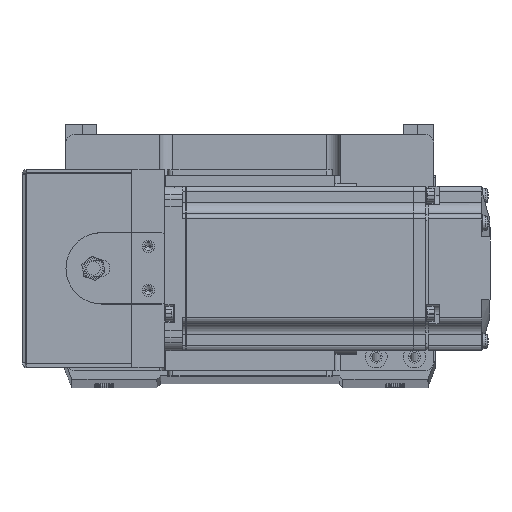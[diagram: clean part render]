
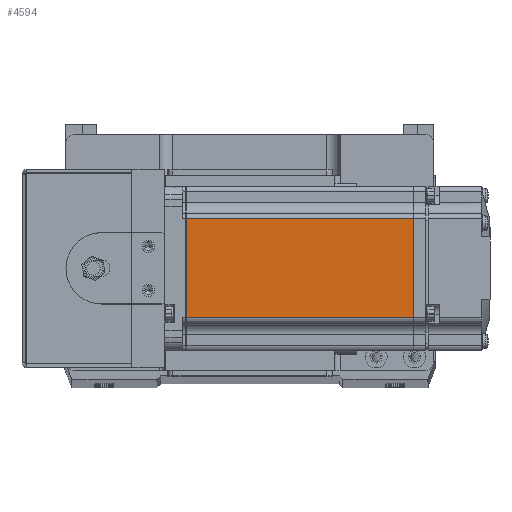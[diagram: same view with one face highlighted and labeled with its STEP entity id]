
A CAD part, top view. The second image highlights one B-rep face of the part: STEP entity #4594.
In plain terms, the highlighted planar face has unit normal (0, 0, 1) as drawn and (0, 1, 0) by its records, which use the part's own axes.
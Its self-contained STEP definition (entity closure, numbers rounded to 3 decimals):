
#1325 = EDGE_CURVE ( 'NONE', #31426, #33763, #35543, .T. ) ;
#2206 = VECTOR ( 'NONE', #10116, 1000. ) ;
#4594 = ADVANCED_FACE ( 'NONE', ( #14543 ), #14746, .T. ) ;
#5570 = DIRECTION ( 'NONE',  ( -1., 0., 0. ) ) ;
#10116 = DIRECTION ( 'NONE',  ( 0., 0., 1. ) ) ;
#10233 = ORIENTED_EDGE ( 'NONE', *, *, #24359, .F. ) ;
#11449 = DIRECTION ( 'NONE',  ( 0., 0., 1. ) ) ;
#11856 = CARTESIAN_POINT ( 'NONE',  ( -6.5, 30., 25. ) ) ;
#13546 = VERTEX_POINT ( 'NONE', #26783 ) ;
#14543 = FACE_OUTER_BOUND ( 'NONE', #26368, .T. ) ;
#14746 = PLANE ( 'NONE',  #15829 ) ;
#15267 = LINE ( 'NONE', #25596, #29333 ) ;
#15829 = AXIS2_PLACEMENT_3D ( 'NONE', #11856, #27770, #11449 ) ;
#17765 = VECTOR ( 'NONE', #36363, 1000. ) ;
#23745 = ORIENTED_EDGE ( 'NONE', *, *, #38741, .T. ) ;
#24208 = CARTESIAN_POINT ( 'NONE',  ( -6.5, 30., -18. ) ) ;
#24359 = EDGE_CURVE ( 'NONE', #13546, #33763, #35702, .T. ) ;
#25596 = CARTESIAN_POINT ( 'NONE',  ( -90.45, 30., 0. ) ) ;
#25801 = CARTESIAN_POINT ( 'NONE',  ( -90.45, 30., 18. ) ) ;
#26261 = EDGE_CURVE ( 'NONE', #33699, #31426, #15267, .T. ) ;
#26368 = EDGE_LOOP ( 'NONE', ( #10233, #23745, #38553, #39632 ) ) ;
#26648 = CARTESIAN_POINT ( 'NONE',  ( -7.75, 30., 0. ) ) ;
#26783 = CARTESIAN_POINT ( 'NONE',  ( -7.75, 30., -18. ) ) ;
#26903 = LINE ( 'NONE', #24208, #32397 ) ;
#27770 = DIRECTION ( 'NONE',  ( 0., 1., 0. ) ) ;
#29333 = VECTOR ( 'NONE', #31761, 1000. ) ;
#31426 = VERTEX_POINT ( 'NONE', #25801 ) ;
#31761 = DIRECTION ( 'NONE',  ( 0., 0., 1. ) ) ;
#32397 = VECTOR ( 'NONE', #5570, 1000. ) ;
#33699 = VERTEX_POINT ( 'NONE', #36145 ) ;
#33763 = VERTEX_POINT ( 'NONE', #37788 ) ;
#35543 = LINE ( 'NONE', #35949, #17765 ) ;
#35702 = LINE ( 'NONE', #26648, #2206 ) ;
#35949 = CARTESIAN_POINT ( 'NONE',  ( -6.5, 30., 18. ) ) ;
#36145 = CARTESIAN_POINT ( 'NONE',  ( -90.45, 30., -18. ) ) ;
#36363 = DIRECTION ( 'NONE',  ( 1., 0., 0. ) ) ;
#37788 = CARTESIAN_POINT ( 'NONE',  ( -7.75, 30., 18. ) ) ;
#38553 = ORIENTED_EDGE ( 'NONE', *, *, #26261, .T. ) ;
#38741 = EDGE_CURVE ( 'NONE', #13546, #33699, #26903, .T. ) ;
#39632 = ORIENTED_EDGE ( 'NONE', *, *, #1325, .T. ) ;
